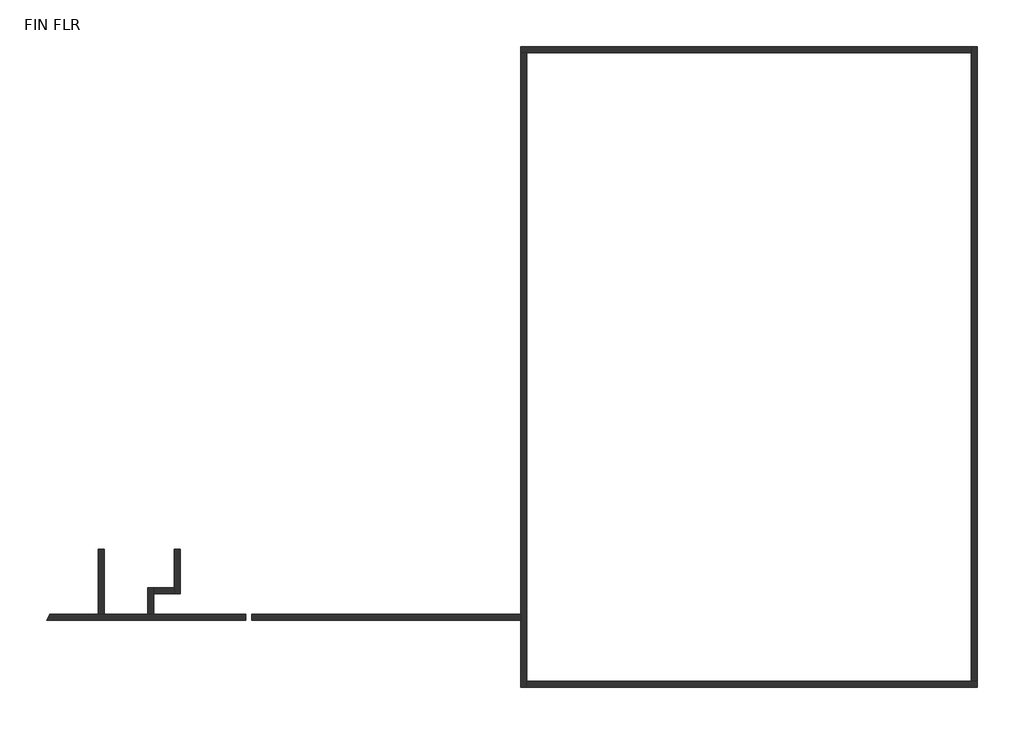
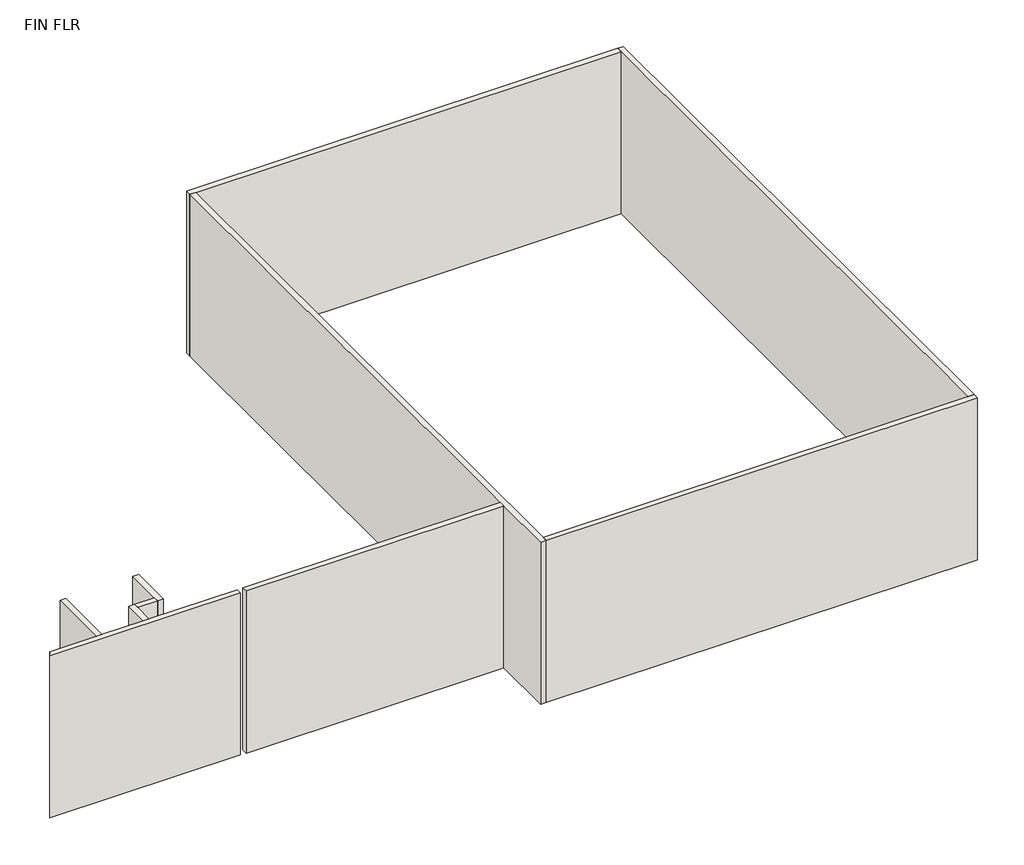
# One storey: 9 walls.
"""IFC4 building model written with IfcOpenShell, lengths in millimetres."""

from ifc_helpers import new_model, si_unit, origin, origin_with_axes, place, context, project, spatial, polyline, outline, extrude, faceted_brep, element, save

model = new_model("IFC4")

# Units and contexts
model_context = context("Model", 3, world=origin())
ifc_project = project(units=[si_unit("LENGTHUNIT", "METRE", prefix="MILLI")], contexts=[model_context])

# Site, building, storey
site = spatial("IfcSite", under=ifc_project)
building = spatial("IfcBuilding", under=site)
storey = spatial("IfcBuildingStorey", under=building, Name="FIN FLR", Elevation=0.0)

# Walls
placement = place(None, origin())
element("IfcWall", 1, ObjectType="Foundation - 8\" Concrete", at=placement, inside=storey, context=model_context, shape_type="Brep", body=[
    faceted_brep([(17856.2, 5232.4, 0.0), (33197.8, 5232.4, 0.0), (33197.8, 5232.4, 6096.0), (17856.2, 5232.4, 6096.0), (17856.2, 5435.6, 0.0), (17856.2, 5435.6, 6096.0), (32994.6, 5435.6, 6096.0), (33197.8, 5435.6, 6096.0), (33197.8, 5435.6, 0.0), (32994.6, 5435.6, 0.0)], [[[0, 1, 2, 3]], [[4, 5, 6, 7, 8, 9]], [[1, 0, 4, 9, 8]], [[3, 2, 7, 6, 5]], [[2, 1, 8, 7]], [[0, 3, 5, 4]]]),
])
element("IfcWall", 2, ObjectType="Foundation - 8\" Concrete", at=placement, inside=storey, context=model_context, shape_type="Brep", body=[
    faceted_brep([(33197.8, 5435.6, 0.0), (33197.8, 27051.0, 0.0), (33197.8, 27051.0, 6096.0), (33197.8, 5435.6, 6096.0), (32994.6, 5435.6, 0.0), (32994.6, 5435.6, 6096.0), (32994.6, 26847.8, 6096.0), (32994.6, 27051.0, 6096.0), (32994.6, 27051.0, 0.0), (32994.6, 26847.8, 0.0)], [[[0, 1, 2, 3]], [[4, 5, 6, 7, 8, 9]], [[1, 0, 4, 9, 8]], [[3, 2, 7, 6, 5]], [[0, 3, 5, 4]], [[2, 1, 8, 7]]]),
])
element("IfcWall", 3, ObjectType="Foundation - 8\" Concrete", at=placement, inside=storey, context=model_context, shape_type="Brep", body=[
    faceted_brep([(32994.6, 27051.0, 0.0), (17653.0, 27051.0, 0.0), (17653.0, 27051.0, 6096.0), (32994.6, 27051.0, 6096.0), (32994.6, 26847.8, 0.0), (32994.6, 26847.8, 6096.0), (17856.2, 26847.8, 6096.0), (17653.0, 26847.8, 6096.0), (17653.0, 26847.8, 0.0), (17856.2, 26847.8, 0.0)], [[[0, 1, 2, 3]], [[4, 5, 6, 7, 8, 9]], [[1, 0, 4, 9, 8]], [[3, 2, 7, 6, 5]], [[0, 3, 5, 4]], [[2, 1, 8, 7]]]),
])
element("IfcWall", 4, ObjectType="Foundation - 8\" Concrete", at=placement, inside=storey, context=model_context, shape_type="Brep", body=[
    faceted_brep([(17856.2, 5232.4, 0.0), (17856.2, 5435.6, 0.0), (17856.2, 26847.8, 0.0), (17856.2, 26847.8, 6096.0), (17856.2, 5435.6, 6096.0), (17856.2, 5232.4, 6096.0), (17653.0, 5232.4, 0.0), (17653.0, 5232.4, 6096.0), (17653.0, 7509.107926, 6096.0), (17653.0, 7712.307926, 6096.0), (17653.0, 16952.4775945, 6096.0), (17653.0, 17155.6775945, 6096.0), (17653.0, 26847.8, 6096.0), (17653.0, 26847.8, 0.0), (17653.0, 17155.6775945, 0.0), (17653.0, 16952.4775945, 0.0), (17653.0, 7712.307926, 0.0), (17653.0, 7509.107926, 0.0)], [[[0, 1, 2, 3, 4, 5]], [[6, 7, 8, 9, 10, 11, 12, 13, 14, 15, 16, 17]], [[2, 1, 0, 6, 17, 16, 15, 14, 13]], [[5, 4, 3, 12, 11, 10, 9, 8, 7]], [[0, 5, 7, 6]], [[3, 2, 13, 12]]]),
])
element("IfcWall", 5, ObjectType="Foundation - 8\" Concrete", at=placement, inside=storey, context=model_context, shape_type="Brep", body=[
    faceted_brep([(1607.4678101, 7712.307926, 0.0), (1607.4678101, 7712.307926, 6096.0), (3266.0661311, 7712.307926, 6096.0), (3469.2661311, 7712.307926, 6096.0), (4942.4661311, 7712.307926, 6096.0), (5145.6661311, 7712.307926, 6096.0), (8280.4, 7712.307926, 6096.0), (8280.4, 7712.307926, 0.0), (5145.6661311, 7712.307926, 0.0), (4942.4661311, 7712.307926, 0.0), (3469.2661311, 7712.307926, 0.0), (3266.0661311, 7712.307926, 0.0), (1500.50054, 7509.107926, 6096.0), (1500.50054, 7509.107926, 0.0), (8280.4, 7509.107926, 0.0), (8280.4, 7509.107926, 6096.0)], [[[0, 1, 2, 3, 4, 5, 6, 7, 8, 9, 10, 11]], [[12, 13, 14, 15]], [[13, 0, 11, 10, 9, 8, 7, 14]], [[1, 12, 15, 6, 5, 4, 3, 2]], [[1, 0, 13, 12]], [[7, 6, 15, 14]]]),
    faceted_brep([(17653.0, 7712.307926, 6096.0), (17653.0, 7712.307926, 0.0), (8483.6, 7712.307926, 0.0), (8483.6, 7712.307926, 6096.0), (17653.0, 7509.107926, 0.0), (17653.0, 7509.107926, 6096.0), (8483.6, 7509.107926, 6096.0), (8483.6, 7509.107926, 0.0)], [[[0, 1, 2, 3]], [[4, 5, 6, 7]], [[1, 4, 7, 2]], [[5, 0, 3, 6]], [[1, 0, 5, 4]], [[3, 2, 7, 6]]]),
])
element("IfcWall", 6, ObjectType="Foundation - 8\" Concrete", at=placement, inside=storey, context=model_context, shape_type="SweptSolid", body=[
    extrude(outline(polyline([(3469.2661311, 9938.0592507), (3469.2661311, 7712.307926), (3266.0661311, 7712.307926), (3266.0661311, 9938.0592507), (3469.2661311, 9938.0592507)])), origin_with_axes(), (0.0, 0.0, 1.0), 6096.0),
])
element("IfcWall", 7, ObjectType="Foundation - 8\" Concrete", at=placement, inside=storey, context=model_context, shape_type="Brep", body=[
    faceted_brep([(6060.0661311, 8414.0592507, 0.0), (6060.0661311, 9938.0592507, 0.0), (6060.0661311, 9938.0592507, 6096.0), (6060.0661311, 8414.0592507, 6096.0), (5856.8661311, 8414.0592507, 0.0), (5856.8661311, 8414.0592507, 6096.0), (5856.8661311, 8617.2592507, 6096.0), (5856.8661311, 9938.0592507, 6096.0), (5856.8661311, 9938.0592507, 0.0), (5856.8661311, 8617.2592507, 0.0)], [[[0, 1, 2, 3]], [[4, 5, 6, 7, 8, 9]], [[1, 0, 4, 9, 8]], [[3, 2, 7, 6, 5]], [[2, 1, 8, 7]], [[0, 3, 5, 4]]]),
])
element("IfcWall", 8, ObjectType="Foundation - 8\" Concrete", at=placement, inside=storey, context=model_context, shape_type="Brep", body=[
    faceted_brep([(5145.6661311, 7712.307926, 0.0), (5145.6661311, 8414.0592507, 0.0), (5145.6661311, 8617.2592507, 0.0), (5145.6661311, 8617.2592507, 6096.0), (5145.6661311, 8414.0592507, 6096.0), (5145.6661311, 7712.307926, 6096.0), (4942.4661311, 7712.307926, 0.0), (4942.4661311, 7712.307926, 6096.0), (4942.4661311, 8617.2592507, 6096.0), (4942.4661311, 8617.2592507, 0.0)], [[[0, 1, 2, 3, 4, 5]], [[6, 7, 8, 9]], [[2, 1, 0, 6, 9]], [[5, 4, 3, 8, 7]], [[0, 5, 7, 6]], [[3, 2, 9, 8]]]),
])
element("IfcWall", 9, ObjectType="Foundation - 8\" Concrete", at=placement, inside=storey, context=model_context, shape_type="SweptSolid", body=[
    extrude(outline(polyline([(5145.6661311, 8617.2592507), (5856.8661311, 8617.2592507), (5856.8661311, 8414.0592507), (5145.6661311, 8414.0592507), (5145.6661311, 8617.2592507)])), origin_with_axes(), (0.0, 0.0, 1.0), 6096.0),
])

save(model, "model.ifc")
